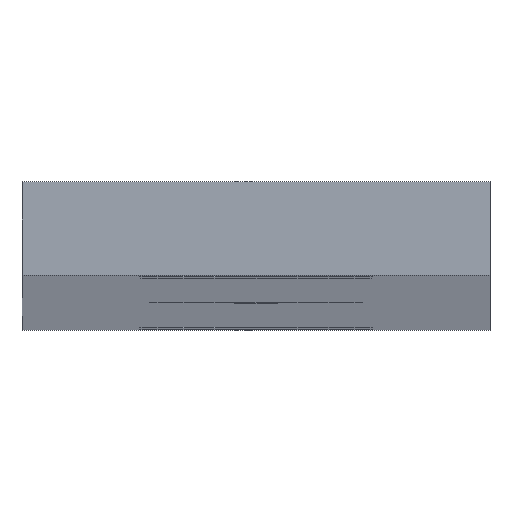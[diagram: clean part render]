
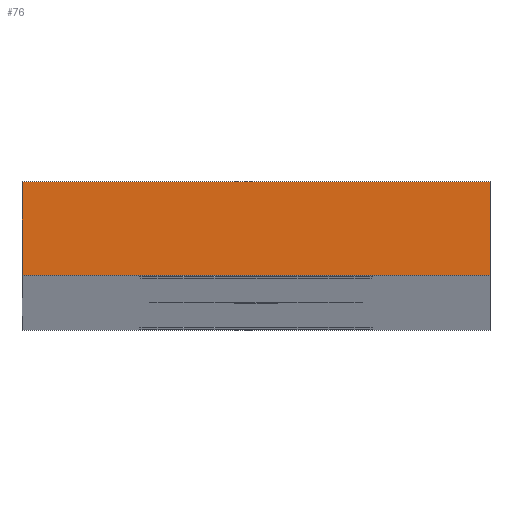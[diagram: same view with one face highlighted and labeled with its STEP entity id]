
A CAD part, top view. The second image highlights one B-rep face of the part: STEP entity #76.
In plain terms, the highlighted planar face has unit normal (0, 0, 1).
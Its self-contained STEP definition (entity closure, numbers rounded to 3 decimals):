
#76 = ADVANCED_FACE( '', ( #89 ), #90, .T. );
#89 = FACE_OUTER_BOUND( '', #126, .T. );
#90 = PLANE( '', #127 );
#126 = EDGE_LOOP( '', ( #168, #169, #170, #171 ) );
#127 = AXIS2_PLACEMENT_3D( '', #172, #173, #174 );
#168 = ORIENTED_EDGE( '', *, *, #240, .T. );
#169 = ORIENTED_EDGE( '', *, *, #242, .T. );
#170 = ORIENTED_EDGE( '', *, *, #243, .T. );
#171 = ORIENTED_EDGE( '', *, *, #244, .T. );
#172 = CARTESIAN_POINT( '', ( -7.937, -1.588, 533.4 ) );
#173 = DIRECTION( '', ( 0., 0., 1. ) );
#174 = DIRECTION( '', ( 1., 0., 0. ) );
#240 = EDGE_CURVE( '', #265, #263, #266, .T. );
#242 = EDGE_CURVE( '', #263, #268, #269, .T. );
#243 = EDGE_CURVE( '', #268, #270, #271, .T. );
#244 = EDGE_CURVE( '', #270, #265, #272, .T. );
#263 = VERTEX_POINT( '', #304 );
#265 = VERTEX_POINT( '', #307 );
#266 = LINE( '', #308, #309 );
#268 = VERTEX_POINT( '', #312 );
#269 = LINE( '', #313, #314 );
#270 = VERTEX_POINT( '', #315 );
#271 = LINE( '', #316, #317 );
#272 = LINE( '', #318, #319 );
#304 = CARTESIAN_POINT( '', ( -7.937, -1.588, 533.4 ) );
#307 = CARTESIAN_POINT( '', ( -7.937, 1.588, 533.4 ) );
#308 = CARTESIAN_POINT( '', ( -7.937, 1.588, 533.4 ) );
#309 = VECTOR( '', #354, 1000. );
#312 = CARTESIAN_POINT( '', ( 7.938, -1.588, 533.4 ) );
#313 = CARTESIAN_POINT( '', ( -7.937, -1.588, 533.4 ) );
#314 = VECTOR( '', #356, 1000. );
#315 = CARTESIAN_POINT( '', ( 7.938, 1.588, 533.4 ) );
#316 = CARTESIAN_POINT( '', ( 7.938, -1.588, 533.4 ) );
#317 = VECTOR( '', #357, 1000. );
#318 = CARTESIAN_POINT( '', ( 7.938, 1.588, 533.4 ) );
#319 = VECTOR( '', #358, 1000. );
#354 = DIRECTION( '', ( 0., -1., 0. ) );
#356 = DIRECTION( '', ( 1., 0., 0. ) );
#357 = DIRECTION( '', ( 0., 1., 0. ) );
#358 = DIRECTION( '', ( -1., 0., 0. ) );
